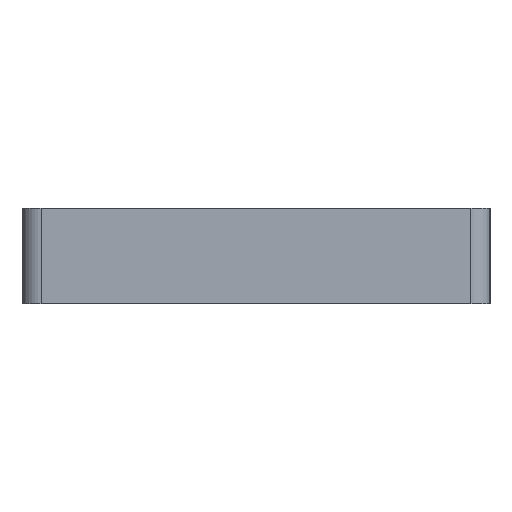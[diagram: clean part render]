
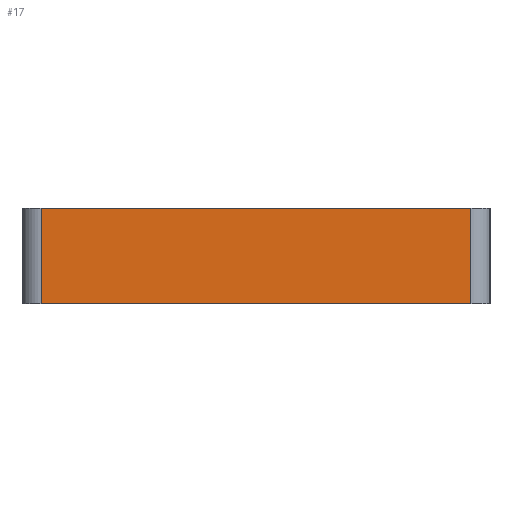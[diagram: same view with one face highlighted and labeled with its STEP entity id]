
A CAD part, left-side view. The second image highlights one B-rep face of the part: STEP entity #17.
In plain terms, the highlighted planar face has unit normal (-1, 0, 0).
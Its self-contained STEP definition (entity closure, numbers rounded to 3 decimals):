
#17 = ADVANCED_FACE('',(#18),#32,.F.);
#18 = FACE_BOUND('',#19,.F.);
#19 = EDGE_LOOP('',(#20,#55,#83,#111));
#20 = ORIENTED_EDGE('',*,*,#21,.F.);
#21 = EDGE_CURVE('',#22,#24,#26,.T.);
#22 = VERTEX_POINT('',#23);
#23 = CARTESIAN_POINT('',(-22.3,-9.,-36.5));
#24 = VERTEX_POINT('',#25);
#25 = CARTESIAN_POINT('',(-22.3,9.,-36.5));
#26 = SURFACE_CURVE('',#27,(#31,#43),.PCURVE_S1.);
#27 = LINE('',#28,#29);
#28 = CARTESIAN_POINT('',(-22.3,-9.8,-36.5));
#29 = VECTOR('',#30,1.);
#30 = DIRECTION('',(-0.,1.,0.));
#31 = PCURVE('',#32,#37);
#32 = PLANE('',#33);
#33 = AXIS2_PLACEMENT_3D('',#34,#35,#36);
#34 = CARTESIAN_POINT('',(-22.3,-9.8,-40.5));
#35 = DIRECTION('',(1.,0.,-0.));
#36 = DIRECTION('',(0.,0.,1.));
#37 = DEFINITIONAL_REPRESENTATION('',(#38),#42);
#38 = LINE('',#39,#40);
#39 = CARTESIAN_POINT('',(4.,0.));
#40 = VECTOR('',#41,1.);
#41 = DIRECTION('',(0.,-1.));
#42 = ( GEOMETRIC_REPRESENTATION_CONTEXT(2) 
PARAMETRIC_REPRESENTATION_CONTEXT() REPRESENTATION_CONTEXT('2D SPACE',''
  ) );
#43 = PCURVE('',#44,#49);
#44 = PLANE('',#45);
#45 = AXIS2_PLACEMENT_3D('',#46,#47,#48);
#46 = CARTESIAN_POINT('',(-22.3,-9.8,-36.5));
#47 = DIRECTION('',(0.,0.,1.));
#48 = DIRECTION('',(1.,0.,-0.));
#49 = DEFINITIONAL_REPRESENTATION('',(#50),#54);
#50 = LINE('',#51,#52);
#51 = CARTESIAN_POINT('',(0.,0.));
#52 = VECTOR('',#53,1.);
#53 = DIRECTION('',(0.,1.));
#54 = ( GEOMETRIC_REPRESENTATION_CONTEXT(2) 
PARAMETRIC_REPRESENTATION_CONTEXT() REPRESENTATION_CONTEXT('2D SPACE',''
  ) );
#55 = ORIENTED_EDGE('',*,*,#56,.F.);
#56 = EDGE_CURVE('',#57,#22,#59,.T.);
#57 = VERTEX_POINT('',#58);
#58 = CARTESIAN_POINT('',(-22.3,-9.,-40.5));
#59 = SURFACE_CURVE('',#60,(#64,#71),.PCURVE_S1.);
#60 = LINE('',#61,#62);
#61 = CARTESIAN_POINT('',(-22.3,-9.,-40.5));
#62 = VECTOR('',#63,1.);
#63 = DIRECTION('',(0.,0.,1.));
#64 = PCURVE('',#32,#65);
#65 = DEFINITIONAL_REPRESENTATION('',(#66),#70);
#66 = LINE('',#67,#68);
#67 = CARTESIAN_POINT('',(0.,-0.8));
#68 = VECTOR('',#69,1.);
#69 = DIRECTION('',(1.,0.));
#70 = ( GEOMETRIC_REPRESENTATION_CONTEXT(2) 
PARAMETRIC_REPRESENTATION_CONTEXT() REPRESENTATION_CONTEXT('2D SPACE',''
  ) );
#71 = PCURVE('',#72,#77);
#72 = CYLINDRICAL_SURFACE('',#73,0.8);
#73 = AXIS2_PLACEMENT_3D('',#74,#75,#76);
#74 = CARTESIAN_POINT('',(-21.5,-9.,-40.5));
#75 = DIRECTION('',(0.,0.,1.));
#76 = DIRECTION('',(-1.,-0.,0.));
#77 = DEFINITIONAL_REPRESENTATION('',(#78),#82);
#78 = LINE('',#79,#80);
#79 = CARTESIAN_POINT('',(0.,0.));
#80 = VECTOR('',#81,1.);
#81 = DIRECTION('',(0.,1.));
#82 = ( GEOMETRIC_REPRESENTATION_CONTEXT(2) 
PARAMETRIC_REPRESENTATION_CONTEXT() REPRESENTATION_CONTEXT('2D SPACE',''
  ) );
#83 = ORIENTED_EDGE('',*,*,#84,.T.);
#84 = EDGE_CURVE('',#57,#85,#87,.T.);
#85 = VERTEX_POINT('',#86);
#86 = CARTESIAN_POINT('',(-22.3,9.,-40.5));
#87 = SURFACE_CURVE('',#88,(#92,#99),.PCURVE_S1.);
#88 = LINE('',#89,#90);
#89 = CARTESIAN_POINT('',(-22.3,-9.8,-40.5));
#90 = VECTOR('',#91,1.);
#91 = DIRECTION('',(-0.,1.,0.));
#92 = PCURVE('',#32,#93);
#93 = DEFINITIONAL_REPRESENTATION('',(#94),#98);
#94 = LINE('',#95,#96);
#95 = CARTESIAN_POINT('',(0.,0.));
#96 = VECTOR('',#97,1.);
#97 = DIRECTION('',(0.,-1.));
#98 = ( GEOMETRIC_REPRESENTATION_CONTEXT(2) 
PARAMETRIC_REPRESENTATION_CONTEXT() REPRESENTATION_CONTEXT('2D SPACE',''
  ) );
#99 = PCURVE('',#100,#105);
#100 = PLANE('',#101);
#101 = AXIS2_PLACEMENT_3D('',#102,#103,#104);
#102 = CARTESIAN_POINT('',(-22.3,-9.8,-40.5));
#103 = DIRECTION('',(0.,0.,1.));
#104 = DIRECTION('',(1.,0.,-0.));
#105 = DEFINITIONAL_REPRESENTATION('',(#106),#110);
#106 = LINE('',#107,#108);
#107 = CARTESIAN_POINT('',(0.,0.));
#108 = VECTOR('',#109,1.);
#109 = DIRECTION('',(0.,1.));
#110 = ( GEOMETRIC_REPRESENTATION_CONTEXT(2) 
PARAMETRIC_REPRESENTATION_CONTEXT() REPRESENTATION_CONTEXT('2D SPACE',''
  ) );
#111 = ORIENTED_EDGE('',*,*,#112,.T.);
#112 = EDGE_CURVE('',#85,#24,#113,.T.);
#113 = SURFACE_CURVE('',#114,(#118,#125),.PCURVE_S1.);
#114 = LINE('',#115,#116);
#115 = CARTESIAN_POINT('',(-22.3,9.,-40.5));
#116 = VECTOR('',#117,1.);
#117 = DIRECTION('',(0.,0.,1.));
#118 = PCURVE('',#32,#119);
#119 = DEFINITIONAL_REPRESENTATION('',(#120),#124);
#120 = LINE('',#121,#122);
#121 = CARTESIAN_POINT('',(0.,-18.8));
#122 = VECTOR('',#123,1.);
#123 = DIRECTION('',(1.,0.));
#124 = ( GEOMETRIC_REPRESENTATION_CONTEXT(2) 
PARAMETRIC_REPRESENTATION_CONTEXT() REPRESENTATION_CONTEXT('2D SPACE',''
  ) );
#125 = PCURVE('',#126,#131);
#126 = CYLINDRICAL_SURFACE('',#127,0.8);
#127 = AXIS2_PLACEMENT_3D('',#128,#129,#130);
#128 = CARTESIAN_POINT('',(-21.5,9.,-40.5));
#129 = DIRECTION('',(0.,0.,1.));
#130 = DIRECTION('',(-1.,-0.,0.));
#131 = DEFINITIONAL_REPRESENTATION('',(#132),#136);
#132 = LINE('',#133,#134);
#133 = CARTESIAN_POINT('',(-0.,0.));
#134 = VECTOR('',#135,1.);
#135 = DIRECTION('',(-0.,1.));
#136 = ( GEOMETRIC_REPRESENTATION_CONTEXT(2) 
PARAMETRIC_REPRESENTATION_CONTEXT() REPRESENTATION_CONTEXT('2D SPACE',''
  ) );
